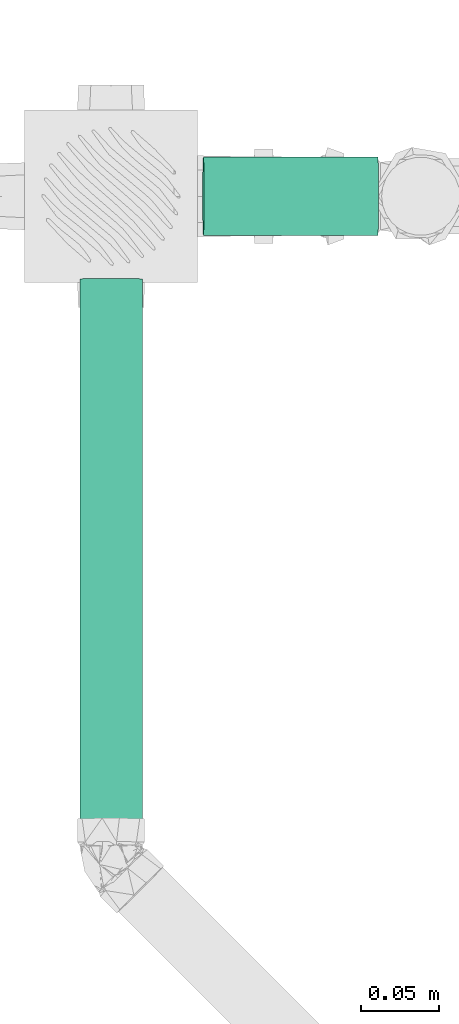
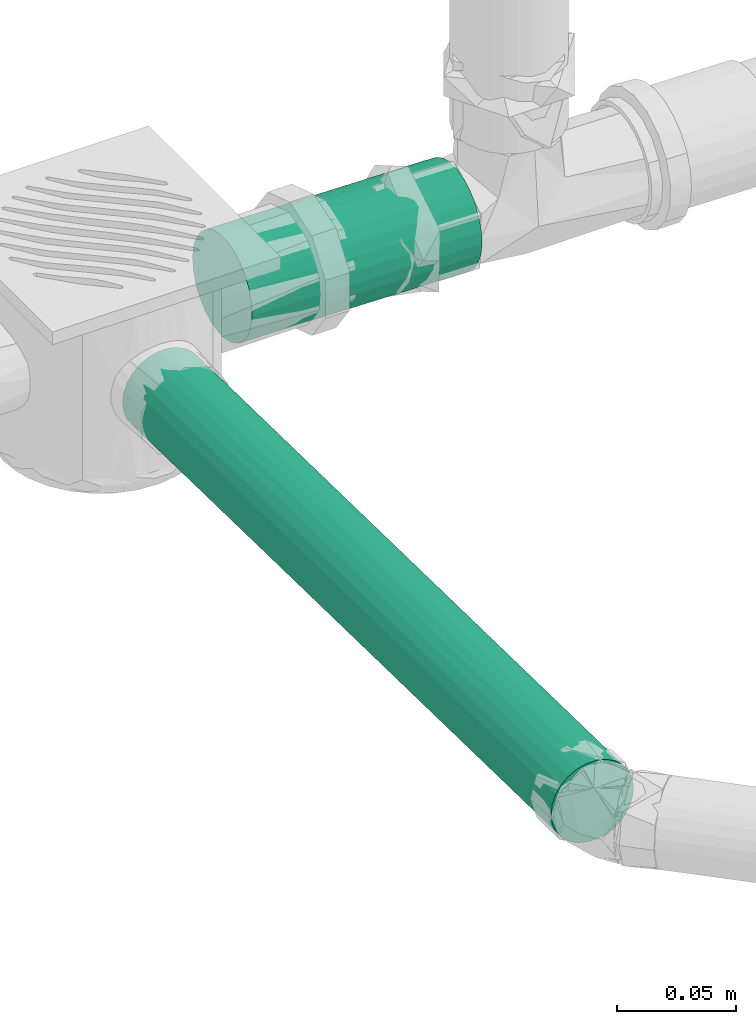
# One storey, part 268 of 589: 2 flow segments.
"""IFC2X3 building model written with IfcOpenShell, lengths in millimetres."""

from ifc_helpers import new_model, entity, si_unit, converted_unit, derived_unit, direction, frame, frame_2d, origin, place, context, subcontext, project, spatial, circle, extrude, type_object, element, save


model = new_model("IFC2X3")

# Units and contexts
model_context = context("Model", 3, precision=0.01, world=origin(), true_north=direction((6.123031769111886e-17, 1.0)))
body_context = subcontext(model_context, "Body", "Model", "MODEL_VIEW")
ifc_project = project(units=[si_unit("LENGTHUNIT", "METRE", prefix="MILLI"), si_unit("AREAUNIT", "SQUARE_METRE"), si_unit("VOLUMEUNIT", "CUBIC_METRE"), converted_unit("PLANEANGLEUNIT", "DEGREE", entity("IfcRatioMeasure", 0.017453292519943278), si_unit("PLANEANGLEUNIT", "RADIAN"), dimensions=[0, 0, 0, 0, 0, 0, 0]), si_unit("MASSUNIT", "GRAM", prefix="KILO"), derived_unit("MASSDENSITYUNIT", [(si_unit("MASSUNIT", "GRAM", prefix="KILO"), 1), (si_unit("LENGTHUNIT", "METRE"), -3)]), derived_unit("IONCONCENTRATIONUNIT", [(si_unit("MASSUNIT", "GRAM", prefix="KILO"), 1), (si_unit("LENGTHUNIT", "METRE"), -3)]), derived_unit("MOMENTOFINERTIAUNIT", [(si_unit("LENGTHUNIT", "METRE"), 4)]), si_unit("TIMEUNIT", "SECOND"), si_unit("FREQUENCYUNIT", "HERTZ"), si_unit("THERMODYNAMICTEMPERATUREUNIT", "DEGREE_CELSIUS"), derived_unit("THERMALTRANSMITTANCEUNIT", [(si_unit("MASSUNIT", "GRAM", prefix="KILO"), 1), (si_unit("THERMODYNAMICTEMPERATUREUNIT", "KELVIN"), -1), (si_unit("TIMEUNIT", "SECOND"), -3)]), derived_unit("THERMALCONDUCTANCEUNIT", [(si_unit("MASSUNIT", "GRAM", prefix="KILO"), 1), (si_unit("THERMODYNAMICTEMPERATUREUNIT", "KELVIN"), -1), (si_unit("TIMEUNIT", "SECOND"), -3), (si_unit("LENGTHUNIT", "METRE"), 1)]), derived_unit("VOLUMETRICFLOWRATEUNIT", [(si_unit("LENGTHUNIT", "METRE"), 3), (si_unit("TIMEUNIT", "SECOND"), -1)]), derived_unit("MASSFLOWRATEUNIT", [(si_unit("MASSUNIT", "GRAM", prefix="KILO"), 1), (si_unit("TIMEUNIT", "SECOND"), -1)]), derived_unit("ROTATIONALFREQUENCYUNIT", [(si_unit("TIMEUNIT", "SECOND"), -1)]), si_unit("ELECTRICCURRENTUNIT", "AMPERE"), si_unit("ELECTRICVOLTAGEUNIT", "VOLT"), si_unit("POWERUNIT", "WATT"), si_unit("FORCEUNIT", "NEWTON", prefix="KILO"), si_unit("ILLUMINANCEUNIT", "LUX"), si_unit("LUMINOUSFLUXUNIT", "LUMEN"), si_unit("LUMINOUSINTENSITYUNIT", "CANDELA"), derived_unit("USERDEFINED", [(si_unit("MASSUNIT", "GRAM", prefix="KILO"), -1), (si_unit("LENGTHUNIT", "METRE"), -2), (si_unit("TIMEUNIT", "SECOND"), 3), (si_unit("LUMINOUSFLUXUNIT", "LUMEN"), 1)]), derived_unit("USERDEFINED", [(si_unit("MASSUNIT", "GRAM", prefix="KILO"), 1), (si_unit("TIMEUNIT", "SECOND"), -3), (si_unit("LENGTHUNIT", "METRE"), 3), (si_unit("ELECTRICCURRENTUNIT", "AMPERE"), -2)]), derived_unit("SOUNDPOWERUNIT", [(si_unit("MASSUNIT", "GRAM", prefix="KILO"), 1), (si_unit("TIMEUNIT", "SECOND"), -3), (si_unit("LENGTHUNIT", "METRE"), 2)]), derived_unit("SOUNDPRESSUREUNIT", [(si_unit("MASSUNIT", "GRAM", prefix="KILO"), 1), (si_unit("LENGTHUNIT", "METRE"), -1), (si_unit("TIMEUNIT", "SECOND"), -2)]), derived_unit("LINEARVELOCITYUNIT", [(si_unit("LENGTHUNIT", "METRE"), 1), (si_unit("TIMEUNIT", "SECOND"), -1)]), si_unit("PRESSUREUNIT", "PASCAL"), derived_unit("USERDEFINED", [(si_unit("MASSUNIT", "GRAM", prefix="KILO"), 1), (si_unit("LENGTHUNIT", "METRE"), -2), (si_unit("TIMEUNIT", "SECOND"), -2)]), derived_unit("LINEARFORCEUNIT", [(si_unit("MASSUNIT", "GRAM", prefix="KILO"), 1), (si_unit("TIMEUNIT", "SECOND"), -2)]), derived_unit("PLANARFORCEUNIT", [(si_unit("MASSUNIT", "GRAM", prefix="KILO"), 1), (si_unit("LENGTHUNIT", "METRE"), -1), (si_unit("TIMEUNIT", "SECOND"), -2)]), derived_unit("SPECIFICHEATCAPACITYUNIT", [(si_unit("THERMODYNAMICTEMPERATUREUNIT", "KELVIN"), -1), (si_unit("LENGTHUNIT", "METRE"), 2), (si_unit("TIMEUNIT", "SECOND"), -2)]), derived_unit("HEATINGVALUEUNIT", [(si_unit("LENGTHUNIT", "METRE"), 2), (si_unit("TIMEUNIT", "SECOND"), -2)]), derived_unit("VAPORPERMEABILITYUNIT", [(si_unit("LENGTHUNIT", "METRE"), -1), (si_unit("TIMEUNIT", "SECOND"), 1)]), derived_unit("DYNAMICVISCOSITYUNIT", [(si_unit("MASSUNIT", "GRAM", prefix="KILO"), 1), (si_unit("TIMEUNIT", "SECOND"), -1), (si_unit("LENGTHUNIT", "METRE"), -1)]), derived_unit("THERMALEXPANSIONCOEFFICIENTUNIT", [(si_unit("THERMODYNAMICTEMPERATUREUNIT", "KELVIN"), -1)]), derived_unit("MODULUSOFELASTICITYUNIT", [(si_unit("MASSUNIT", "GRAM", prefix="KILO"), 1), (si_unit("LENGTHUNIT", "METRE"), -1), (si_unit("TIMEUNIT", "SECOND"), -2)]), derived_unit("ISOTHERMALMOISTURECAPACITYUNIT", [(si_unit("LENGTHUNIT", "METRE"), 3), (si_unit("MASSUNIT", "GRAM", prefix="KILO"), -1)]), derived_unit("MOISTUREDIFFUSIVITYUNIT", [(si_unit("TIMEUNIT", "SECOND"), -1), (si_unit("LENGTHUNIT", "METRE"), 2)])], contexts=[model_context])

# Site, building, storey
site_placement = place(None, origin())
site = spatial("IfcSite", under=ifc_project, at=site_placement, Name="Default", CompositionType="ELEMENT")
building_placement = place(site_placement, origin())
building = spatial("IfcBuilding", under=site, at=building_placement, CompositionType="ELEMENT")
storey_placement = place(building_placement, frame((0.0, 0.0, 100.0)))
storey = spatial("IfcBuildingStorey", under=building, at=storey_placement, Name="TÉRREO", CompositionType="ELEMENT", Elevation=100.0)

# Flow segments
pipe_segment_type = type_object("IfcPipeSegmentType", Name="Tipos de tubos:PVC Esgoto Série Normal", PredefinedType="NOTDEFINED")
flow_segment_1_placement = place(storey_placement, origin())
element("IfcFlowSegment", 1, at=flow_segment_1_placement, inside=storey, type_object=pipe_segment_type, Name="Tipos de tubos:PVC Esgoto Série Normal", ObjectType="Tipos de tubos:PVC Esgoto Série Normal", context=body_context, shape_type="SweptSolid", body=[
    extrude(circle(Radius=20.0, at=frame_2d((0.0, -1.6916415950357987e-14), x_axis=(1.0, 0.0))), frame((4883.309058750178, 2572.7875056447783, -183.6877553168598), z_axis=(0.0, 0.9998000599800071, -0.019996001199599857), x_axis=(-1.0, 0.0, 0.0)), (0.0, 0.0, 1.0), 360.1119550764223),
])
flow_segment_2_placement = place(storey_placement, origin())
element("IfcFlowSegment", 2, at=flow_segment_2_placement, inside=storey, type_object=pipe_segment_type, Name="Tipos de tubos:PVC Esgoto Série Normal", ObjectType="Tipos de tubos:PVC Esgoto Série Normal", context=body_context, shape_type="SweptSolid", body=[
    extrude(circle(Radius=25.0, at=frame_2d((0.0, -3.383283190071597e-14), x_axis=(1.0, 0.0))), frame((4942.309058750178, 2985.7274599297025, -190.8885544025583), z_axis=(0.999800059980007, 0.0, -0.019996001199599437), x_axis=(0.0, -1.0, 0.0)), (0.0, 0.0, 1.0), 111.5653601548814),
])

save(model, "model.ifc")
